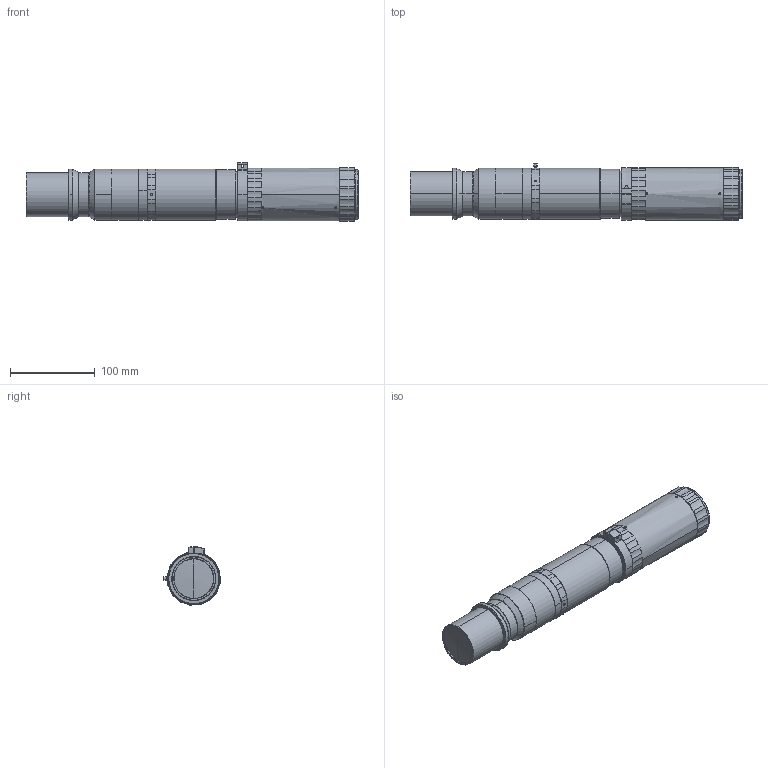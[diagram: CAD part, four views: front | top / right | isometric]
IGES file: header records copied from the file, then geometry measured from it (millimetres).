
Start section: SolidWorks IGES file using analytic representation for surfaces
Bounding box: 391.01 x 67.17 x 68.91 mm (x, y, z)
Surface area: 82880.7 mm2 (no closed solid volume)
Topology: 0 solids, 0 shells, 451 faces, 5427 edges, 5425 vertices
Faces by surface type: revolution 313, bspline 138
